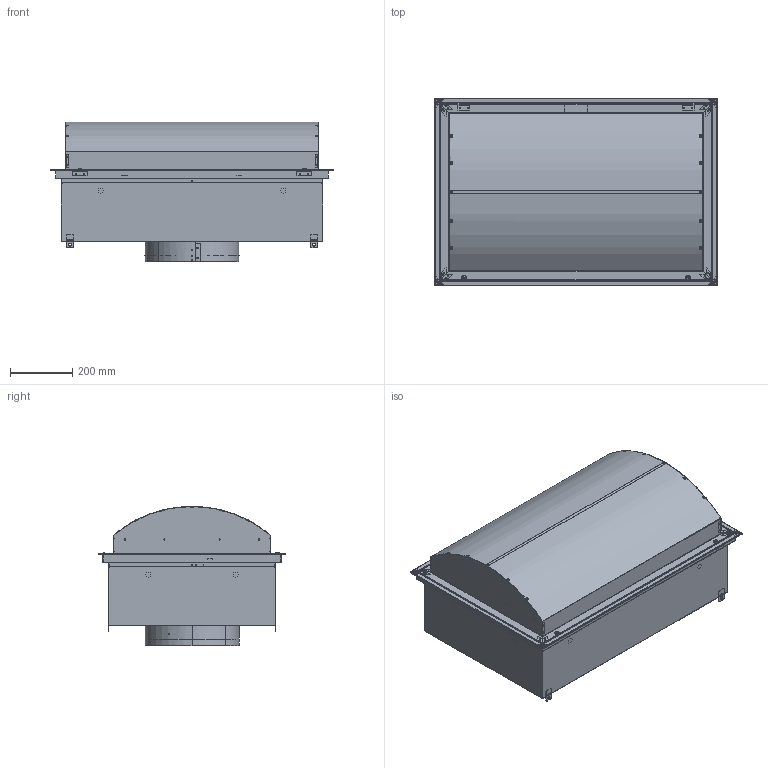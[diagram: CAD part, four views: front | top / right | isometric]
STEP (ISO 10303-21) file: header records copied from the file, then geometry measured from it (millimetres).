
FILE_DESCRIPTION (( 'STEP AP214' ), '1' );
FILE_NAME ('36 X 24_HRDP-HEPA_.STEP', '2025-07-25T20:31:18', ( '' ), ( '' ), 'SwSTEP 2.0', 'SolidWorks 2024', '' );
FILE_SCHEMA (( 'AUTOMOTIVE_DESIGN' ));
Length unit declared in the file: inch
Products named in the file (50): 061325-HRDPs_H2E5_L05; 061325-HRDPs_FC3E-A2_L05; 061325-HRDPs_H1Z25_L05_LABEL; "CHALLENGE."; 061325-HRDPs_H1P11_L05; 061325-HRDPs_H1Z26_L05_LABEL; "CONCENTRATION"; 061325-HRDPs_FP1B-SUB_L05; 061325-HRDPs_P1B1B-SUB_L05; 061325-HRDPs_H1A2_L05; 061325-HRDPs_SM3X4_L05; 061325-HRDPs_H1V31_L05_WASHER, TEFLON: 0.50"OD x 0.25"ID x 0.025"th; 061325-HRDPs_H2E11_L05_GUIDE, HEPA FILTER, SWING ARM; 061325-HRDPs_H1B4_L05; 061325-HRDPs_H2G12_L05; 061325-HRDPs_FP1B20-A4_L05; 061325-HRDPs_H2E1_L05_WELD CLIP; 40º BEVEL FRAME; 061325-HRDPs_H1T7_L05_9531K23; 061325-HRDPs_SSRD_L05; 061325-HRDPs_EG5B_L05; 061325-HRDPs_C1C1C112_L05; 061325-HRDPs_FP1B20-A3_L05; 061325-HRDPs_R3B2B_L05; 061325-HRDPs_FC3E-A3_L05; 061325-HRDPs_SM2X3_L05; 061325-HRDPs_FP1B20-A1_L05; 061325-HRDPs_H1V7_L05_WASHER, TEFLON: 0.50"OD x 0.25"ID x 0.025"th; 061325-HRDPs_H1E1_L05; 061325-HRDPs_H1T3_L05_GROMMET, BLADE; 061325-HRDPs_H1E2_L05; 061325-HRDPs_PLASTER-SUB_L05; 061325-HRDPs_FC3E-A4_L05; 061325-HRDPs_K2A2_L05; 061325-HRDPs_H1B8_L05; 061325-HRDPs_PLENUM-SUB_L05; 061325-HRDPs_PORTS-SUB_L05; 061325-HRDPs_H2E2_L05_WELD CLIP, BOB FRAME; 061325-HRDPs_EG5A_L05; 061325-HRDPs_BM5D_L05; 061325-HRDPs_H1L1_L05; 061325-HRDPs_R3B2B_SUB_L05; 061325-HRDPs_K2A1_L05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
Assembly tree (87 placements, depth 4):
  36 X 24_HRDP-HEPA_
    061325-HRDPs_PLASTER-SUB_L05
      061325-HRDPs_FC3E-SUB_L05
        061325-HRDPs_FC3E-A1_L05
        061325-HRDPs_FC3E-A2_L05
        061325-HRDPs_FC3E-A3_L05
        061325-HRDPs_FC3E-A4_L05
        061325-HRDPs_H2E2_L05_WELD CLIP, BOB FRAME  x4
        061325-HRDPs_H2G12_L05  x2
        061325-HRDPs_H1F1_L05_1_4 TURN SPRING  x2
        061325-HRDPs_H2E11_L05_GUIDE, HEPA FILTER, SWING ARM  x6
        061325-HRDPs_H2E12_L05_CLIP, HEPA FILTER, SWING ARM  x6
        061325-HRDPs_H1V31_L05_WASHER, TEFLON: 0.50"OD x 0.25"ID x 0.025"th  x6
        061325-HRDPs_H1Z25_L05_LABEL; "CHALLENGE."
        061325-HRDPs_H1Z26_L05_LABEL; "CONCENTRATION"
      061325-HRDPs_PORTS-SUB_L05  x2
        061325-HRDPs_H1P11_L05
        061325-HRDPs_H1T7_L05_9531K23
    061325-HRDPs_FACE-SUB_L05
      061325-HRDPs_FP1B-SUB_L05
        061325-HRDPs_FP1B20-A1_L05
        061325-HRDPs_FP1B20-A2_L05
        061325-HRDPs_FP1B20-A3_L05
        061325-HRDPs_FP1B20-A4_L05
        061325-HRDPs_H2E1_L05_WELD CLIP; 40º BEVEL FRAME  x4
        061325-HRDPs_H1E1_L05  x2
        061325-HRDPs_H1E2_L05  x2
        061325-HRDPs_H1L1_L05  x2
        061325-HRDPs_H1Z24_L05
    061325-HRDPs_PERF-SUB_L05
      061325-HRDPs_R3B2B_SUB_L05
        061325-HRDPs_EG5B_L05
        061325-HRDPs_EG5A_L05
        061325-HRDPs_R3B2B_L05
    061325-HRDPs_PLENUM-SUB_L05
      061325-HRDPs_P1B1B-SUB_L05
        061325-HRDPs_P1B1B_L05
        061325-HRDPs_H2E5_L05  x4
    061325-HRDPs_C1C1C112_L05
    061325-HRDPs_SSRD_L05
      061325-HRDPs_H1L1_L05  x4
      061325-HRDPs_BM5D_L05  x2
      061325-HRDPs_SM2X3_L05
      061325-HRDPs_SM3X4_L05
      061325-HRDPs_H1A2_L05
      061325-HRDPs_H1B4_L05
      061325-HRDPs_H1V7_L05_WASHER, TEFLON: 0.50"OD x 0.25"ID x 0.025"th  x2
      061325-HRDPs_K2A2_L05  x2
      061325-HRDPs_H1T3_L05_GROMMET, BLADE  x2
      061325-HRDPs_K2A1_L05
      061325-HRDPs_H1B8_L05
Bounding box: 908.05 x 603.25 x 448 mm (x, y, z)
Volume: 1964889.1 mm3; surface area: 4679234.6 mm2
Topology: 94 solids, 94 shells, 3565 faces, 8870 edges, 5552 vertices
Faces by surface type: plane 1768, cylinder 1384, torus 184, bspline 173, cone 44, sphere 12
Entity records: 79072 total; most frequent: CARTESIAN_POINT 22894, DIRECTION 11318, ORIENTED_EDGE 11296, EDGE_CURVE 5648, AXIS2_PLACEMENT_3D 4071, VERTEX_POINT 3510, LINE 3176, VECTOR 3176
